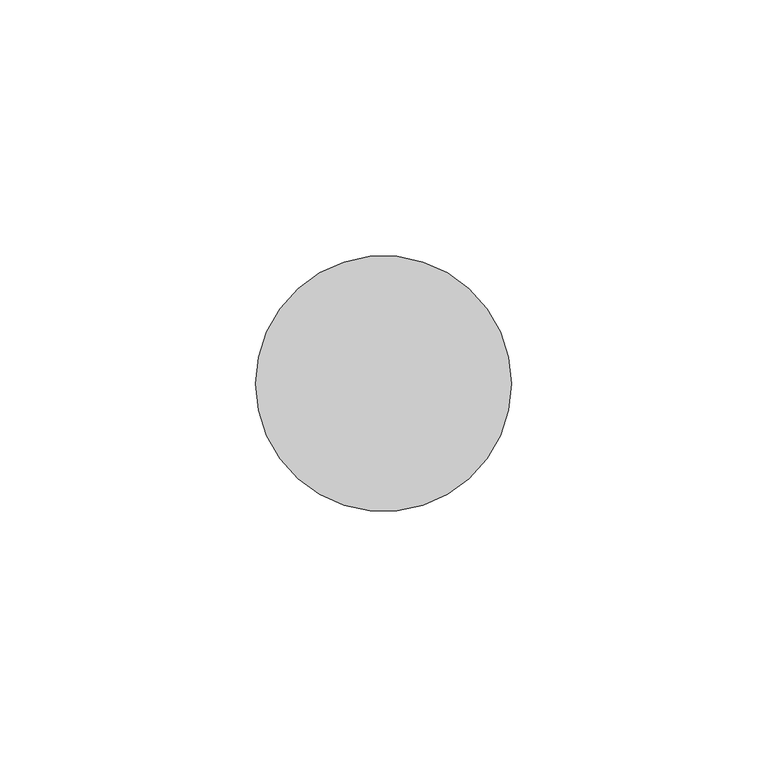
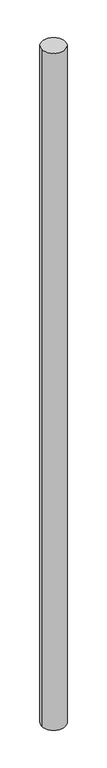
"""IFC4 building model written with IfcOpenShell, lengths in millimetres: member geometry, 圓形豎框 : 25mm 半徑."""

from ifc_helpers import new_model, si_unit, point, frame, origin, origin_2d, place, context, project, spatial, circle_curve, trimmed, segment, composite_curve, outline, extrude, source, transform, mapped, element, save


def member_1cbf8feb(model_context):
    return source(origin(), model_context, "Body", "SweptSolid", [
        extrude(outline(composite_curve([segment(trimmed(circle_curve(origin_2d(), 25.0), [point((25.0, 0.0))], [point((-25.0, 0.0))], False, "CARTESIAN"), True, "CONTINUOUS"), segment(trimmed(circle_curve(origin_2d(), 25.0), [point((-25.0, 0.0))], [point((25.0, 0.0))], False, "CARTESIAN"), True, "CONTINUOUS")], self_intersect=False)), frame((0.0, 0.0, -1516.4233644), z_axis=(0.0, 0.0, 1.0), x_axis=(1.0, 0.0, 0.0)), (0.0, 0.0, 1.0), 1516.4233644),
    ])


if __name__ == "__main__":
    model = new_model("IFC4")
    model_context = context("Model", 3, world=origin())
    ifc_project = project(units=[si_unit("LENGTHUNIT", "METRE", prefix="MILLI")], contexts=[model_context])
    site = spatial("IfcSite", under=ifc_project)
    building = spatial("IfcBuilding", under=site)
    placement = place(None, origin())
    member_shape = member_1cbf8feb(model_context)
    element("IfcMember", 1, ObjectType="圓形豎框 : 25mm 半徑", at=placement, inside=building, context=model_context, shape_type="MappedRepresentation", body=[
        mapped(member_shape, transform((0.0, 0.0, 0.0), x_axis=(1.0, 0.0, 0.0), y_axis=(0.0, 1.0, 0.0), z_axis=(0.0, 0.0, 1.0))),
    ])
    save(model, "model.ifc")
